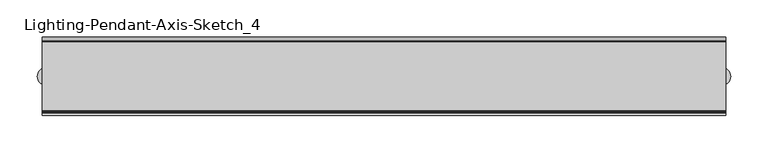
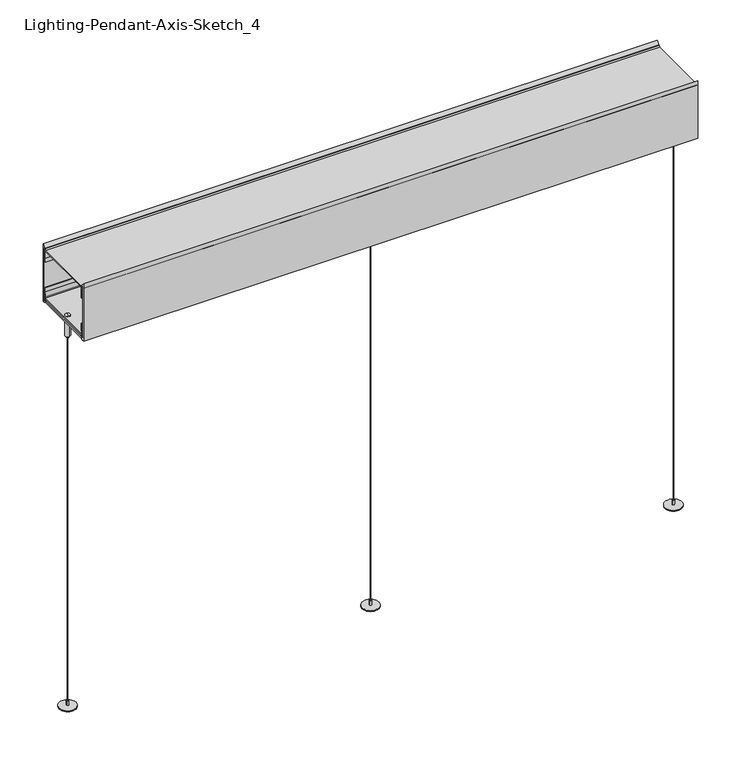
"""IFC4 building model written with IfcOpenShell, lengths in millimetres: light fixture geometry, Lighting-Pendant-Axis-Sketch_4 : SK4PDI-1400-1400-SO-SO-80-35."""

import ifcopenshell
import ifcopenshell.guid

model = None  # the IFC model being written
_history = None  # IfcOwnerHistory: only IFC2X3 demands one
_inside = {}  # id of a spatial element -> (the spatial element, [elements in it])
_under = {}  # id of a project, library or spatial element -> (it, [spatial elements below it])
_declared = {}  # id of a project -> (the project, [libraries it declares])
_typed = {}  # id of a type object -> (the type object, [elements of that type])
_made_of = {}  # id of a material, layer set ... -> (it, [elements and type objects made of it])


def new_model(schema):
    """Start an empty IFC model of exactly this schema.

    Asked for "IFC4X3", IfcOpenShell would pick the latest addendum, in which some entities
    have other attributes; the version numbers below select the first issue.
    IFC2X3 requires an IfcOwnerHistory on every rooted entity: one is made here for all.
    """
    global model, _history
    if schema == "IFC4X3":
        model = ifcopenshell.file(schema_version=(4, 3, 0, 0))
    else:
        model = ifcopenshell.file(schema=schema)
    _inside.clear()
    _under.clear()
    _declared.clear()
    _typed.clear()
    _made_of.clear()
    _history = None
    if model.schema == "IFC2X3":
        org = make("IfcOrganization", Name="unknown")
        user = make(
            "IfcPersonAndOrganization",
            ThePerson=make("IfcPerson", FamilyName="unknown"),
            TheOrganization=org,
        )
        app = make(
            "IfcApplication",
            ApplicationDeveloper=org,
            Version="unknown",
            ApplicationFullName="unknown",
            ApplicationIdentifier="unknown",
        )
        _history = make(
            "IfcOwnerHistory",
            OwningUser=user,
            OwningApplication=app,
            ChangeAction="ADDED",
            CreationDate=0,
        )
    return model


def make(cls, **values):
    """One entity of the class cls with the attributes given. An attribute that is None is left unset."""
    return model.create_entity(
        cls, **{name: value for name, value in values.items() if value is not None}
    )


def rooted(cls, **values):
    """An entity with a GlobalId (a new one), such as an element, a storey or a relation."""
    return make(cls, GlobalId=ifcopenshell.guid.new(), OwnerHistory=_history, **values)


def si_unit(unit_type, name, prefix=None):
    """IfcSIUnit, for example si_unit("LENGTHUNIT", "METRE", prefix="MILLI")."""
    return make("IfcSIUnit", UnitType=unit_type, Prefix=prefix, Name=name)


def assignment(units):
    """IfcUnitAssignment: the units of a project."""
    return None if units is None else make("IfcUnitAssignment", Units=units)


def point(xyz):
    """IfcCartesianPoint."""
    return None if xyz is None else make("IfcCartesianPoint", Coordinates=xyz)


def direction(xyz):
    """IfcDirection."""
    return None if xyz is None else make("IfcDirection", DirectionRatios=xyz)


def frame(location, z_axis=None, x_axis=None):
    """IfcAxis2Placement3D, a coordinate frame: its origin and axes. An axis left out is left unset."""
    return make(
        "IfcAxis2Placement3D",
        Location=point(location),
        Axis=direction(z_axis),
        RefDirection=direction(x_axis),
    )


def frame_2d(location, x_axis=None):
    """IfcAxis2Placement2D, a coordinate frame in the plane: its origin and x axis."""
    return make(
        "IfcAxis2Placement2D", Location=point(location), RefDirection=direction(x_axis)
    )


def origin():
    """The frame at (0, 0, 0) with its axes left unset."""
    return frame((0.0, 0.0, 0.0))


def origin_with_axes():
    """The frame at (0, 0, 0) with the z axis (0, 0, 1) and the x axis (1, 0, 0) written out."""
    return frame((0.0, 0.0, 0.0), z_axis=(0.0, 0.0, 1.0), x_axis=(1.0, 0.0, 0.0))


def origin_2d():
    """The frame at (0, 0) in the plane with its x axis left unset."""
    return frame_2d((0.0, 0.0))


def place(relative_to, where):
    """IfcLocalPlacement: puts the frame where relative to a parent placement (None: the world)."""
    return make(
        "IfcLocalPlacement", PlacementRelTo=relative_to, RelativePlacement=where
    )


def context(
    kind, dimensions, precision=None, world=None, true_north=None, identifier=None
):
    """IfcGeometricRepresentationContext, for example the 3D "Model" context."""
    return make(
        "IfcGeometricRepresentationContext",
        ContextIdentifier=identifier,
        ContextType=kind,
        CoordinateSpaceDimension=dimensions,
        Precision=precision,
        WorldCoordinateSystem=world,
        TrueNorth=true_north,
    )


def project(units=None, contexts=None):
    """IfcProject with its units and contexts."""
    return rooted(
        "IfcProject",
        Name="project",
        RepresentationContexts=contexts,
        UnitsInContext=assignment(units),
    )


def spatial(cls, under=None, at=None, **own):
    """A site, building, storey or space (cls), placed at a placement, below another one or the project."""
    s = rooted(cls, ObjectPlacement=at, **own)
    if under is not None:
        _under.setdefault(under.id(), (under, []))[1].append(s)
    return s


def polyline(points):
    """IfcPolyline through the points."""
    return make("IfcPolyline", Points=[point(p) for p in points])


def circle_curve(where, radius):
    """IfcCircle in the frame where."""
    return make("IfcCircle", Position=where, Radius=radius)


def trimmed(basis, trim1, trim2, sense, master):
    """IfcTrimmedCurve: the piece of a basis curve between two trims."""
    return make(
        "IfcTrimmedCurve",
        BasisCurve=basis,
        Trim1=trim1,
        Trim2=trim2,
        SenseAgreement=sense,
        MasterRepresentation=master,
    )


def segment(curve, same_sense, transition):
    """IfcCompositeCurveSegment."""
    return make(
        "IfcCompositeCurveSegment",
        Transition=transition,
        SameSense=same_sense,
        ParentCurve=curve,
    )


def composite_curve(segments, self_intersect=None):
    """IfcCompositeCurve: segments joined end to end."""
    return make("IfcCompositeCurve", Segments=segments, SelfIntersect=self_intersect)


def outline(outer, holes=None, kind="AREA"):
    """IfcArbitraryClosedProfileDef: a profile drawn as a closed curve; with holes, ...WithVoids."""
    if holes is None:
        return make("IfcArbitraryClosedProfileDef", ProfileType=kind, OuterCurve=outer)
    return make(
        "IfcArbitraryProfileDefWithVoids",
        ProfileType=kind,
        OuterCurve=outer,
        InnerCurves=holes,
    )


def extrude(swept, where, along, depth):
    """IfcExtrudedAreaSolid: the profile swept, set in the frame where, extruded along a direction by depth."""
    return make(
        "IfcExtrudedAreaSolid",
        SweptArea=swept,
        Position=where,
        ExtrudedDirection=direction(along),
        Depth=depth,
    )


def shape(context_of_items, identifier, shape_type, items):
    """IfcShapeRepresentation: the items that make up one representation, for example the "Body"."""
    return make(
        "IfcShapeRepresentation",
        ContextOfItems=context_of_items,
        RepresentationIdentifier=identifier,
        RepresentationType=shape_type,
        Items=items,
    )


def source(mapping_origin, context_of_items, identifier, shape_type, items):
    """IfcRepresentationMap: a shape defined once, which mapped items show again and again."""
    return make(
        "IfcRepresentationMap",
        MappingOrigin=mapping_origin,
        MappedRepresentation=shape(context_of_items, identifier, shape_type, items),
    )


def transform(
    local_origin,
    x_axis=None,
    y_axis=None,
    z_axis=None,
    scale=None,
    scale2=None,
    scale3=None,
    uniform=True,
):
    """IfcCartesianTransformationOperator3D, or its non-uniform kind. x_axis, y_axis, z_axis: its Axis1, 2, 3."""
    if uniform:
        return make(
            "IfcCartesianTransformationOperator3D",
            Axis1=direction(x_axis),
            Axis2=direction(y_axis),
            LocalOrigin=point(local_origin),
            Scale=scale,
            Axis3=direction(z_axis),
        )
    return make(
        "IfcCartesianTransformationOperator3DnonUniform",
        Axis1=direction(x_axis),
        Axis2=direction(y_axis),
        LocalOrigin=point(local_origin),
        Scale=scale,
        Axis3=direction(z_axis),
        Scale2=scale2,
        Scale3=scale3,
    )


def mapped(mapping_source, mapping_target):
    """IfcMappedItem: shows the shape of a source again, moved by a transform."""
    return make(
        "IfcMappedItem", MappingSource=mapping_source, MappingTarget=mapping_target
    )


def made_of(thing, what):
    """Note that an element or type object is made of a material, layer set ...; save() writes the relation."""
    if what is not None:
        _made_of.setdefault(what.id(), (what, []))[1].append(thing)
    return thing


def element(
    cls,
    number,
    at=None,
    inside=None,
    cuts=None,
    type_object=None,
    material=None,
    context=None,
    identifier="Body",
    shape_type=None,
    held_by="IfcProductDefinitionShape",
    body=None,
    shapes=None,
    **own,
):
    """One element of the class cls, such as IfcWall. Its Tag is "e" and its number.

    at: its placement. inside: the storey or other place that contains it. cuts: it is an
    opening in that element (IfcRelVoidsElement). A single representation is given by context,
    identifier, shape_type and body (its items); several are given by shapes. held_by: the class
    of the entity that holds the representations. save() writes the other relations.
    """
    e = rooted(cls, Tag="e%d" % number, ObjectPlacement=at, **own)
    if body is not None:
        shapes = [shape(context, identifier, shape_type, body)]
    if shapes is not None:
        e.Representation = make(held_by, Representations=shapes)
    if inside is not None:
        _inside.setdefault(inside.id(), (inside, []))[1].append(e)
    if cuts is not None:
        rooted(
            "IfcRelVoidsElement", RelatingBuildingElement=cuts, RelatedOpeningElement=e
        )
    if type_object is not None:
        _typed.setdefault(type_object.id(), (type_object, []))[1].append(e)
    return made_of(e, material)


def aggregate(whole, parts):
    """IfcRelAggregates: a whole, such as a stair, and the parts it consists of."""
    return rooted("IfcRelAggregates", RelatingObject=whole, RelatedObjects=parts)


def save(model, path):
    """Write the relations noted so far, then the file.

    IfcRelAggregates (storeys below a building ...), IfcRelContainedInSpatialStructure (elements
    in a storey), IfcRelDefinesByType, IfcRelAssociatesMaterial and IfcRelDeclares: one each for
    every whole, place, type object, material and project.
    """
    for whole, parts in _under.values():
        aggregate(whole, parts)
    for where, things in _inside.values():
        rooted(
            "IfcRelContainedInSpatialStructure",
            RelatedElements=things,
            RelatingStructure=where,
        )
    for kind, things in _typed.values():
        rooted("IfcRelDefinesByType", RelatedObjects=things, RelatingType=kind)
    for what, things in _made_of.values():
        rooted("IfcRelAssociatesMaterial", RelatedObjects=things, RelatingMaterial=what)
    for by, libraries in _declared.values():
        rooted("IfcRelDeclares", RelatingContext=by, RelatedDefinitions=libraries)
    model.write(path)


def plane_surface(at):
    """IfcPlane: the flat surface through the origin of the frame at, square to its z axis."""
    return make("IfcPlane", Position=at)


def cylinder_surface(at, radius):
    """IfcCylindricalSurface: all points at the distance radius from the z axis of the frame at."""
    return make("IfcCylindricalSurface", Position=at, Radius=radius)


def advanced_brep(points, edges, surfaces, faces):
    """IfcAdvancedBrep: a solid bounded by faces that lie on surfaces and meet in shared edges.

    An edge is (start, end): straight between two places in points (the first is 0);
    or (start, end, curve); or (start, end, curve, False) where it runs against its curve.
    A face is (place in surfaces, loops), or (place, loops, False) where it looks against
    its surface's normal. A loop lists edges by number (the first is 1), with a minus sign
    where the edge is run from its end to its start. The first loop is the outer one.
    """
    corners = [point(p) for p in points]
    vertices = [make("IfcVertexPoint", VertexGeometry=c) for c in corners]
    made = []
    for start, end, *more in edges:
        made.append(
            make(
                "IfcEdgeCurve",
                EdgeStart=vertices[start],
                EdgeEnd=vertices[end],
                EdgeGeometry=more[0] if more else make("IfcPolyline", Points=[corners[start], corners[end]]),
                SameSense=more[1] if len(more) > 1 else True,
            )
        )
    hull = []
    for where, loops, *sense in faces:
        bounds = []
        for j, loop in enumerate(loops):
            ring = [make("IfcOrientedEdge", EdgeElement=made[abs(k) - 1], Orientation=k > 0) for k in loop]
            bounds.append(
                make(
                    "IfcFaceOuterBound" if j == 0 else "IfcFaceBound",
                    Bound=make("IfcEdgeLoop", EdgeList=ring),
                    Orientation=True,
                )
            )
        hull.append(make("IfcAdvancedFace", Bounds=bounds, FaceSurface=surfaces[where], SameSense=sense[0] if sense else True))
    return make("IfcAdvancedBrep", Outer=make("IfcClosedShell", CfsFaces=hull))


def lighting_pendant_axis_sketch_4_4e6c729b(model_context):
    return source(origin(), model_context, "Body", "SolidModel", [
        extrude(outline(composite_curve([segment(trimmed(circle_curve(frame_2d((450.85, 0.0)), 0.396875), [point((450.453125, 0.0))], [point((451.246875, 0.0))], False, "CARTESIAN"), True, "CONTINUOUS"), segment(trimmed(circle_curve(frame_2d((450.85, 0.0)), 0.396875), [point((451.246875, 0.0))], [point((450.453125, 0.0))], False, "CARTESIAN"), True, "CONTINUOUS")], self_intersect=False)), frame((0.0, 0.0, 9.525), z_axis=(0.0, 0.0, 1.0), x_axis=(1.0, 0.0, 0.0)), (0.0, 0.0, 1.0), 600.075),
        advanced_brep(
        [(450.85, -1.2, 583.1008521), (450.85, -2.95625, 583.1008521), (450.85, 2.95625, 583.1008521), (450.85, 1.2, 583.1008521), (450.85, -1.2, 580.2508521), (450.85, 1.2, 580.2508521), (450.85, 0.0, 580.2508521), (450.85, -3.75, 616.0364681), (450.85, 0.0, 616.0364681), (450.85, 3.75, 616.0364681), (450.85, -3.75, 584.1008521), (450.85, 3.75, 584.1008521), (450.85, -2.95625, 584.1008521), (450.85, 2.95625, 584.1008521)],
        [
            (0, 1),
            (1, 2, circle_curve(frame((450.85, 0.0, 583.1008521), z_axis=(0.0, 0.0, -1.0), x_axis=(0.0, 1.0, 0.0)), 2.95625)),
            (2, 3),
            (3, 0, circle_curve(frame((450.85, 0.0, 583.1008521), z_axis=(0.0, 0.0, 1.0), x_axis=(0.0, 1.0, 0.0)), 1.2)),
            (2, 1, circle_curve(frame((450.85, 0.0, 583.1008521), z_axis=(0.0, 0.0, -1.0), x_axis=(0.0, 1.0, 0.0)), 2.95625)),
            (0, 3, circle_curve(frame((450.85, 0.0, 583.1008521), z_axis=(0.0, 0.0, 1.0), x_axis=(0.0, 1.0, 0.0)), 1.2)),
            (4, 0),
            (3, 5),
            (5, 4, circle_curve(frame((450.85, 0.0, 580.2508521), z_axis=(0.0, 0.0, 1.0), x_axis=(0.0, 1.0, 0.0)), 1.2)),
            (4, 5, circle_curve(frame((450.85, 0.0, 580.2508521), z_axis=(0.0, 0.0, 1.0), x_axis=(0.0, 1.0, 0.0)), 1.2)),
            (6, 4),
            (5, 6),
            (7, 8),
            (8, 9),
            (9, 7, circle_curve(frame((450.85, 0.0, 616.0364681), z_axis=(0.0, 0.0, 1.0), x_axis=(0.0, 1.0, 0.0)), 3.75)),
            (7, 9, circle_curve(frame((450.85, 0.0, 616.0364681), z_axis=(0.0, 0.0, 1.0), x_axis=(0.0, 1.0, 0.0)), 3.75)),
            (10, 7),
            (9, 11),
            (11, 10, circle_curve(frame((450.85, 0.0, 584.1008521), z_axis=(0.0, 0.0, 1.0), x_axis=(0.0, 1.0, 0.0)), 3.75)),
            (10, 11, circle_curve(frame((450.85, 0.0, 584.1008521), z_axis=(0.0, 0.0, 1.0), x_axis=(0.0, 1.0, 0.0)), 3.75)),
            (12, 10),
            (11, 13),
            (13, 12, circle_curve(frame((450.85, 0.0, 584.1008521), z_axis=(0.0, 0.0, 1.0), x_axis=(0.0, 1.0, 0.0)), 2.95625)),
            (12, 13, circle_curve(frame((450.85, 0.0, 584.1008521), z_axis=(0.0, 0.0, 1.0), x_axis=(0.0, 1.0, 0.0)), 2.95625)),
            (1, 12),
            (13, 2),
        ],
        [
            plane_surface(frame((450.85, 0.0, 583.1008521), z_axis=(0.0, 0.0, -1.0), x_axis=(0.0, 1.0, 0.0))),
            cylinder_surface(frame((450.85, 0.0, 2648.6067943), z_axis=(0.0, 0.0, -1.0), x_axis=(0.0, 1.0, 0.0)), 1.2),
            plane_surface(frame((450.85, 0.0, 580.2508521), z_axis=(0.0, 0.0, -1.0), x_axis=(0.0, 1.0, 0.0))),
            plane_surface(frame((450.85, 0.0, 616.0364681), z_axis=(0.0, 0.0, 1.0), x_axis=(0.0, 1.0, 0.0))),
            cylinder_surface(frame((450.85, 0.0, 2648.6067943), z_axis=(0.0, 0.0, -1.0), x_axis=(0.0, 1.0, 0.0)), 3.75),
            plane_surface(frame((450.85, 0.0, 584.1008521), z_axis=(0.0, 0.0, -1.0), x_axis=(0.0, 1.0, 0.0))),
            cylinder_surface(frame((450.85, 0.0, 2648.6067943), z_axis=(0.0, 0.0, -1.0), x_axis=(0.0, 1.0, 0.0)), 2.95625),
        ],
        [
            (0, [[1, 2, 3, 4]]),
            (0, [[-3, 5, -1, 6]]),
            (1, [[7, -4, 8, 9]]),
            (1, [[-8, -6, -7, 10]]),
            (2, [[11, -9, 12]]),
            (2, [[-12, -10, -11]]),
            (3, [[13, 14, 15]]),
            (3, [[-14, -13, 16]]),
            (4, [[17, -15, 18, 19]]),
            (4, [[-18, -16, -17, 20]]),
            (5, [[21, -19, 22, 23]]),
            (5, [[-22, -20, -21, 24]]),
            (6, [[25, -23, 26, -2]]),
            (6, [[-26, -24, -25, -5]]),
        ],
    ),
        extrude(outline(composite_curve([segment(trimmed(circle_curve(frame_2d((450.85, 0.0)), 12.7), [point((438.15, 0.0))], [point((463.55, 0.0))], False, "CARTESIAN"), True, "CONTINUOUS"), segment(trimmed(circle_curve(frame_2d((450.85, 0.0)), 12.7), [point((463.55, 0.0))], [point((438.15, 0.0))], False, "CARTESIAN"), True, "CONTINUOUS")], self_intersect=False)), origin_with_axes(), (0.0, 0.0, 1.0), 1.5875),
        extrude(outline(composite_curve([segment(trimmed(circle_curve(frame_2d((450.85, 0.0)), 1.5875), [point((449.2625, 0.0))], [point((452.4375, 0.0))], False, "CARTESIAN"), True, "CONTINUOUS"), segment(trimmed(circle_curve(frame_2d((450.85, 0.0)), 1.5875), [point((452.4375, 0.0))], [point((449.2625, 0.0))], False, "CARTESIAN"), True, "CONTINUOUS")], self_intersect=False)), frame((0.0, 0.0, 1.5875), z_axis=(0.0, 0.0, 1.0), x_axis=(1.0, 0.0, 0.0)), (0.0, 0.0, 1.0), 7.9375),
        extrude(outline(composite_curve([segment(trimmed(circle_curve(frame_2d((-450.85, 0.0)), 0.396875), [point((-451.246875, 0.0))], [point((-450.453125, 0.0))], False, "CARTESIAN"), True, "CONTINUOUS"), segment(trimmed(circle_curve(frame_2d((-450.85, 0.0)), 0.396875), [point((-450.453125, 0.0))], [point((-451.246875, 0.0))], False, "CARTESIAN"), True, "CONTINUOUS")], self_intersect=False)), frame((0.0, 0.0, 9.525), z_axis=(0.0, 0.0, 1.0), x_axis=(1.0, 0.0, 0.0)), (0.0, 0.0, 1.0), 600.075),
        advanced_brep(
        [(-450.85, -1.2, 583.1008521), (-450.85, -2.95625, 583.1008521), (-450.85, 2.95625, 583.1008521), (-450.85, 1.2, 583.1008521), (-450.85, -1.2, 580.2508521), (-450.85, 1.2, 580.2508521), (-450.85, 0.0, 580.2508521), (-450.85, -3.75, 616.0364681), (-450.85, 0.0, 616.0364681), (-450.85, 3.75, 616.0364681), (-450.85, -3.75, 584.1008521), (-450.85, 3.75, 584.1008521), (-450.85, -2.95625, 584.1008521), (-450.85, 2.95625, 584.1008521)],
        [
            (0, 1),
            (1, 2, circle_curve(frame((-450.85, 0.0, 583.1008521), z_axis=(0.0, 0.0, -1.0), x_axis=(0.0, 1.0, 0.0)), 2.95625)),
            (2, 3),
            (3, 0, circle_curve(frame((-450.85, 0.0, 583.1008521), z_axis=(0.0, 0.0, 1.0), x_axis=(0.0, 1.0, 0.0)), 1.2)),
            (2, 1, circle_curve(frame((-450.85, 0.0, 583.1008521), z_axis=(0.0, 0.0, -1.0), x_axis=(0.0, 1.0, 0.0)), 2.95625)),
            (0, 3, circle_curve(frame((-450.85, 0.0, 583.1008521), z_axis=(0.0, 0.0, 1.0), x_axis=(0.0, 1.0, 0.0)), 1.2)),
            (4, 0),
            (3, 5),
            (5, 4, circle_curve(frame((-450.85, 0.0, 580.2508521), z_axis=(0.0, 0.0, 1.0), x_axis=(0.0, 1.0, 0.0)), 1.2)),
            (4, 5, circle_curve(frame((-450.85, 0.0, 580.2508521), z_axis=(0.0, 0.0, 1.0), x_axis=(0.0, 1.0, 0.0)), 1.2)),
            (6, 4),
            (5, 6),
            (7, 8),
            (8, 9),
            (9, 7, circle_curve(frame((-450.85, 0.0, 616.0364681), z_axis=(0.0, 0.0, 1.0), x_axis=(0.0, 1.0, 0.0)), 3.75)),
            (7, 9, circle_curve(frame((-450.85, 0.0, 616.0364681), z_axis=(0.0, 0.0, 1.0), x_axis=(0.0, 1.0, 0.0)), 3.75)),
            (10, 7),
            (9, 11),
            (11, 10, circle_curve(frame((-450.85, 0.0, 584.1008521), z_axis=(0.0, 0.0, 1.0), x_axis=(0.0, 1.0, 0.0)), 3.75)),
            (10, 11, circle_curve(frame((-450.85, 0.0, 584.1008521), z_axis=(0.0, 0.0, 1.0), x_axis=(0.0, 1.0, 0.0)), 3.75)),
            (12, 10),
            (11, 13),
            (13, 12, circle_curve(frame((-450.85, 0.0, 584.1008521), z_axis=(0.0, 0.0, 1.0), x_axis=(0.0, 1.0, 0.0)), 2.95625)),
            (12, 13, circle_curve(frame((-450.85, 0.0, 584.1008521), z_axis=(0.0, 0.0, 1.0), x_axis=(0.0, 1.0, 0.0)), 2.95625)),
            (1, 12),
            (13, 2),
        ],
        [
            plane_surface(frame((-450.85, 0.0, 583.1008521), z_axis=(0.0, 0.0, -1.0), x_axis=(0.0, 1.0, 0.0))),
            cylinder_surface(frame((-450.85, 0.0, 2648.6067943), z_axis=(0.0, 0.0, -1.0), x_axis=(0.0, 1.0, 0.0)), 1.2),
            plane_surface(frame((-450.85, 0.0, 580.2508521), z_axis=(0.0, 0.0, -1.0), x_axis=(0.0, 1.0, 0.0))),
            plane_surface(frame((-450.85, 0.0, 616.0364681), z_axis=(0.0, 0.0, 1.0), x_axis=(0.0, 1.0, 0.0))),
            cylinder_surface(frame((-450.85, 0.0, 2648.6067943), z_axis=(0.0, 0.0, -1.0), x_axis=(0.0, 1.0, 0.0)), 3.75),
            plane_surface(frame((-450.85, 0.0, 584.1008521), z_axis=(0.0, 0.0, -1.0), x_axis=(0.0, 1.0, 0.0))),
            cylinder_surface(frame((-450.85, 0.0, 2648.6067943), z_axis=(0.0, 0.0, -1.0), x_axis=(0.0, 1.0, 0.0)), 2.95625),
        ],
        [
            (0, [[1, 2, 3, 4]]),
            (0, [[-3, 5, -1, 6]]),
            (1, [[7, -4, 8, 9]]),
            (1, [[-8, -6, -7, 10]]),
            (2, [[11, -9, 12]]),
            (2, [[-12, -10, -11]]),
            (3, [[13, 14, 15]]),
            (3, [[-14, -13, 16]]),
            (4, [[17, -15, 18, 19]]),
            (4, [[-18, -16, -17, 20]]),
            (5, [[21, -19, 22, 23]]),
            (5, [[-22, -20, -21, 24]]),
            (6, [[25, -23, 26, -2]]),
            (6, [[-26, -24, -25, -5]]),
        ],
    ),
        extrude(outline(composite_curve([segment(trimmed(circle_curve(frame_2d((-450.85, 0.0)), 12.7), [point((-463.55, 0.0))], [point((-438.15, 0.0))], False, "CARTESIAN"), True, "CONTINUOUS"), segment(trimmed(circle_curve(frame_2d((-450.85, 0.0)), 12.7), [point((-438.15, 0.0))], [point((-463.55, 0.0))], False, "CARTESIAN"), True, "CONTINUOUS")], self_intersect=False)), origin_with_axes(), (0.0, 0.0, 1.0), 1.5875),
        extrude(outline(composite_curve([segment(trimmed(circle_curve(frame_2d((-450.85, 0.0)), 1.5875), [point((-452.4375, 0.0))], [point((-449.2625, 0.0))], False, "CARTESIAN"), True, "CONTINUOUS"), segment(trimmed(circle_curve(frame_2d((-450.85, 0.0)), 1.5875), [point((-449.2625, 0.0))], [point((-452.4375, 0.0))], False, "CARTESIAN"), True, "CONTINUOUS")], self_intersect=False)), frame((0.0, 0.0, 1.5875), z_axis=(0.0, 0.0, 1.0), x_axis=(1.0, 0.0, 0.0)), (0.0, 0.0, 1.0), 7.9375),
        extrude(outline(composite_curve([segment(trimmed(circle_curve(origin_2d(), 0.396875), [point((-0.396875, 0.0))], [point((0.396875, 0.0))], False, "CARTESIAN"), True, "CONTINUOUS"), segment(trimmed(circle_curve(origin_2d(), 0.396875), [point((0.396875, 0.0))], [point((-0.396875, 0.0))], False, "CARTESIAN"), True, "CONTINUOUS")], self_intersect=False)), frame((0.0, 0.0, 9.525), z_axis=(0.0, 0.0, 1.0), x_axis=(1.0, 0.0, 0.0)), (0.0, 0.0, 1.0), 600.075),
        advanced_brep(
        [(0.0, -1.2, 583.1008521), (0.0, -2.95625, 583.1008521), (0.0, 2.95625, 583.1008521), (0.0, 1.2, 583.1008521), (0.0, -1.2, 580.2508521), (0.0, 1.2, 580.2508521), (0.0, 0.0, 580.2508521), (0.0, -3.75, 616.0364681), (0.0, 0.0, 616.0364681), (0.0, 3.75, 616.0364681), (0.0, -3.75, 584.1008521), (0.0, 3.75, 584.1008521), (0.0, -2.95625, 584.1008521), (0.0, 2.95625, 584.1008521)],
        [
            (0, 1),
            (1, 2, circle_curve(frame((0.0, 0.0, 583.1008521), z_axis=(0.0, 0.0, -1.0), x_axis=(0.0, 1.0, 0.0)), 2.95625)),
            (2, 3),
            (3, 0, circle_curve(frame((0.0, 0.0, 583.1008521), z_axis=(0.0, 0.0, 1.0), x_axis=(0.0, 1.0, 0.0)), 1.2)),
            (2, 1, circle_curve(frame((0.0, 0.0, 583.1008521), z_axis=(0.0, 0.0, -1.0), x_axis=(0.0, 1.0, 0.0)), 2.95625)),
            (0, 3, circle_curve(frame((0.0, 0.0, 583.1008521), z_axis=(0.0, 0.0, 1.0), x_axis=(0.0, 1.0, 0.0)), 1.2)),
            (4, 0),
            (3, 5),
            (5, 4, circle_curve(frame((0.0, 0.0, 580.2508521), z_axis=(0.0, 0.0, 1.0), x_axis=(0.0, 1.0, 0.0)), 1.2)),
            (4, 5, circle_curve(frame((0.0, 0.0, 580.2508521), z_axis=(0.0, 0.0, 1.0), x_axis=(0.0, 1.0, 0.0)), 1.2)),
            (6, 4),
            (5, 6),
            (7, 8),
            (8, 9),
            (9, 7, circle_curve(frame((0.0, 0.0, 616.0364681), z_axis=(0.0, 0.0, 1.0), x_axis=(0.0, 1.0, 0.0)), 3.75)),
            (7, 9, circle_curve(frame((0.0, 0.0, 616.0364681), z_axis=(0.0, 0.0, 1.0), x_axis=(0.0, 1.0, 0.0)), 3.75)),
            (10, 7),
            (9, 11),
            (11, 10, circle_curve(frame((0.0, 0.0, 584.1008521), z_axis=(0.0, 0.0, 1.0), x_axis=(0.0, 1.0, 0.0)), 3.75)),
            (10, 11, circle_curve(frame((0.0, 0.0, 584.1008521), z_axis=(0.0, 0.0, 1.0), x_axis=(0.0, 1.0, 0.0)), 3.75)),
            (12, 10),
            (11, 13),
            (13, 12, circle_curve(frame((0.0, 0.0, 584.1008521), z_axis=(0.0, 0.0, 1.0), x_axis=(0.0, 1.0, 0.0)), 2.95625)),
            (12, 13, circle_curve(frame((0.0, 0.0, 584.1008521), z_axis=(0.0, 0.0, 1.0), x_axis=(0.0, 1.0, 0.0)), 2.95625)),
            (1, 12),
            (13, 2),
        ],
        [
            plane_surface(frame((0.0, 0.0, 583.1008521), z_axis=(0.0, 0.0, -1.0), x_axis=(0.0, 1.0, 0.0))),
            cylinder_surface(frame((0.0, 0.0, 2648.6067943), z_axis=(0.0, 0.0, -1.0), x_axis=(0.0, 1.0, 0.0)), 1.2),
            plane_surface(frame((0.0, 0.0, 580.2508521), z_axis=(0.0, 0.0, -1.0), x_axis=(0.0, 1.0, 0.0))),
            plane_surface(frame((0.0, 0.0, 616.0364681), z_axis=(0.0, 0.0, 1.0), x_axis=(0.0, 1.0, 0.0))),
            cylinder_surface(frame((0.0, 0.0, 2648.6067943), z_axis=(0.0, 0.0, -1.0), x_axis=(0.0, 1.0, 0.0)), 3.75),
            plane_surface(frame((0.0, 0.0, 584.1008521), z_axis=(0.0, 0.0, -1.0), x_axis=(0.0, 1.0, 0.0))),
            cylinder_surface(frame((0.0, 0.0, 2648.6067943), z_axis=(0.0, 0.0, -1.0), x_axis=(0.0, 1.0, 0.0)), 2.95625),
        ],
        [
            (0, [[1, 2, 3, 4]]),
            (0, [[-3, 5, -1, 6]]),
            (1, [[7, -4, 8, 9]]),
            (1, [[-8, -6, -7, 10]]),
            (2, [[11, -9, 12]]),
            (2, [[-12, -10, -11]]),
            (3, [[13, 14, 15]]),
            (3, [[-14, -13, 16]]),
            (4, [[17, -15, 18, 19]]),
            (4, [[-18, -16, -17, 20]]),
            (5, [[21, -19, 22, 23]]),
            (5, [[-22, -20, -21, 24]]),
            (6, [[25, -23, 26, -2]]),
            (6, [[-26, -24, -25, -5]]),
        ],
    ),
        extrude(outline(composite_curve([segment(trimmed(circle_curve(origin_2d(), 12.7), [point((-12.7, 0.0))], [point((12.7, 0.0))], False, "CARTESIAN"), True, "CONTINUOUS"), segment(trimmed(circle_curve(origin_2d(), 12.7), [point((12.7, 0.0))], [point((-12.7, 0.0))], False, "CARTESIAN"), True, "CONTINUOUS")], self_intersect=False)), origin_with_axes(), (0.0, 0.0, 1.0), 1.5875),
        extrude(outline(composite_curve([segment(trimmed(circle_curve(origin_2d(), 1.5875), [point((-1.5875, 0.0))], [point((1.5875, 0.0))], False, "CARTESIAN"), True, "CONTINUOUS"), segment(trimmed(circle_curve(origin_2d(), 1.5875), [point((1.5875, 0.0))], [point((-1.5875, 0.0))], False, "CARTESIAN"), True, "CONTINUOUS")], self_intersect=False)), frame((0.0, 0.0, 1.5875), z_axis=(0.0, 0.0, 1.0), x_axis=(1.0, 0.0, 0.0)), (0.0, 0.0, 1.0), 7.9375),
        extrude(outline(polyline([(-457.2, 48.2599987), (457.2, 48.2599987), (457.2, -48.2599977), (-457.2, -48.2599977), (-457.2, 48.2599987)])), frame((0.0, 0.0, 689.9966516), z_axis=(0.0, 0.0, 1.0), x_axis=(1.0, 0.0, 0.0)), (0.0, 0.0, 1.0), 1.2700021),
        extrude(outline(polyline([(-457.2, 48.2599987), (457.2, 48.2599987), (457.2, -48.2599977), (-457.2, -48.2599977), (-457.2, 48.2599987)])), frame((0.0, 0.0, 614.5727648), z_axis=(0.0, 0.0, 1.0), x_axis=(1.0, 0.0, 0.0)), (0.0, 0.0, 1.0), 1.27),
        extrude(outline(polyline([(52.387502, 608.1183333), (48.8649121, 608.1183333), (47.3074984, 609.6312495), (47.3074984, 611.2933333), (48.5749867, 611.2933333), (48.5749867, 610.0233333), (50.4824984, 610.0233333), (50.4824984, 694.1255577), (47.9424983, 694.1255577), (52.387502, 698.5705614), (52.387502, 608.1183333)])), frame((-457.2, 0.0, 0.0), z_axis=(1.0, 0.0, 0.0), x_axis=(0.0, 1.0, 0.0)), (0.0, 0.0, 1.0), 914.4),
        extrude(outline(composite_curve([segment(trimmed(circle_curve(frame_2d((48.3340208, 615.7030556)), 1.6193127), [point((47.7623797, 617.2181133))], [point((49.9533335, 615.7030556))], False, "CARTESIAN"), True, "CONTINUOUS"), segment(polyline([(49.9533335, 615.7030556), (49.9180536, 613.3747222)]), True, "CONTINUOUS"), segment(trimmed(circle_curve(frame_2d((48.7732449, 613.3920688)), 1.1449401), [point((49.9180536, 613.3747222))], [point((48.2952793, 612.3516667))], False, "CARTESIAN"), True, "CONTINUOUS"), segment(polyline([(48.2952793, 612.3516667), (46.5723819, 614.1933833), (48.9062894, 614.1085157), (48.9655543, 615.7383333)]), True, "CONTINUOUS"), segment(trimmed(circle_curve(frame_2d((48.3048304, 615.63155)), 0.6692972), [point((48.9655543, 615.7383333))], [point((48.3048304, 616.3008472))], True, "CARTESIAN"), True, "CONTINUOUS"), segment(polyline([(48.3048304, 616.3008472), (46.8043106, 616.3008472), (46.2138897, 626.1805556), (46.1433321, 632.7774986), (47.1663883, 632.7774986), (47.203689, 626.6227718), (47.7623797, 617.2181133)]), True, "CONTINUOUS")], self_intersect=False)), frame((-457.2, 0.0, 0.0), z_axis=(1.0, 0.0, 0.0), x_axis=(0.0, 1.0, 0.0)), (0.0, 0.0, 1.0), 914.4),
        extrude(outline(composite_curve([segment(polyline([(47.1044268, 679.4782704), (47.3427772, 672.9236111), (46.318589, 672.9236111), (46.1087781, 679.4627439), (46.305025, 689.3731705), (48.4283489, 689.5430339), (48.3121579, 691.6345118), (45.9802057, 691.5049613), (47.6250008, 693.3847222)]), True, "CONTINUOUS"), segment(trimmed(circle_curve(frame_2d((48.1406669, 692.3629889)), 1.144487), [point((47.6250008, 693.3847222))], [point((49.2830578, 692.4322236))], False, "CARTESIAN"), True, "CONTINUOUS"), segment(polyline([(49.2830578, 692.4322236), (49.4241668, 690.1038875)]), True, "CONTINUOUS"), segment(trimmed(circle_curve(frame_2d((47.6971346, 689.9992206)), 1.730201), [point((49.4241668, 690.1038875))], [point((47.2795148, 688.3201765))], False, "CARTESIAN"), True, "CONTINUOUS"), segment(polyline([(47.2795148, 688.3201765), (47.1044268, 679.4782704)]), True, "CONTINUOUS")], self_intersect=False)), frame((-457.2, 0.0, 0.0), z_axis=(1.0, 0.0, 0.0), x_axis=(0.0, 1.0, 0.0)), (0.0, 0.0, 1.0), 914.4),
        extrude(outline(polyline([(-52.387502, 608.1183333), (-52.387502, 698.5705614), (-47.9424983, 694.1255577), (-50.4824984, 694.1255577), (-50.4824984, 610.0233333), (-48.5749867, 610.0233333), (-48.5749867, 611.2933333), (-47.3074984, 611.2933333), (-47.3074984, 609.6312495), (-48.8649121, 608.1183333), (-52.387502, 608.1183333)])), frame((-457.2, 0.0, 0.0), z_axis=(1.0, 0.0, 0.0), x_axis=(0.0, 1.0, 0.0)), (0.0, 0.0, 1.0), 914.4),
        extrude(outline(composite_curve([segment(polyline([(-47.7623797, 617.2181133), (-47.203689, 626.6227718), (-47.1663883, 632.7774986), (-46.1433321, 632.7774986), (-46.2138897, 626.1805556), (-46.8043106, 616.3008472), (-48.3048304, 616.3008472)]), True, "CONTINUOUS"), segment(trimmed(circle_curve(frame_2d((-48.3048304, 615.63155)), 0.6692972), [point((-48.3048304, 616.3008472))], [point((-48.9655543, 615.7383333))], True, "CARTESIAN"), True, "CONTINUOUS"), segment(polyline([(-48.9655543, 615.7383333), (-48.9655543, 614.2021029), (-46.6913645, 614.0661951), (-48.2952793, 612.3516667)]), True, "CONTINUOUS"), segment(trimmed(circle_curve(frame_2d((-48.7732449, 613.3920688)), 1.1449401), [point((-48.2952793, 612.3516667))], [point((-49.9180536, 613.3747222))], False, "CARTESIAN"), True, "CONTINUOUS"), segment(polyline([(-49.9180536, 613.3747222), (-49.9533335, 615.7030556)]), True, "CONTINUOUS"), segment(trimmed(circle_curve(frame_2d((-48.3340208, 615.7030556)), 1.6193127), [point((-49.9533335, 615.7030556))], [point((-47.7623797, 617.2181133))], False, "CARTESIAN"), True, "CONTINUOUS")], self_intersect=False)), frame((-457.2, 0.0, 0.0), z_axis=(1.0, 0.0, 0.0), x_axis=(0.0, 1.0, 0.0)), (0.0, 0.0, 1.0), 914.4),
        extrude(outline(composite_curve([segment(polyline([(-47.1044268, 679.4782704), (-47.2795148, 688.3201765)]), True, "CONTINUOUS"), segment(trimmed(circle_curve(frame_2d((-47.6971346, 689.9992206)), 1.730201), [point((-47.2795148, 688.3201765))], [point((-49.4241668, 690.1038875))], False, "CARTESIAN"), True, "CONTINUOUS"), segment(polyline([(-49.4241668, 690.1038875), (-49.2830578, 692.4322236)]), True, "CONTINUOUS"), segment(trimmed(circle_curve(frame_2d((-48.1406669, 692.3629889)), 1.144487), [point((-49.2830578, 692.4322236))], [point((-47.6250008, 693.3847222))], False, "CARTESIAN"), True, "CONTINUOUS"), segment(polyline([(-47.6250008, 693.3847222), (-45.9802057, 691.5049613), (-48.3121579, 691.6345118), (-48.4283489, 689.5430339), (-46.305025, 689.3731705), (-46.1087781, 679.4627439), (-46.318589, 672.9236111), (-47.3427772, 672.9236111), (-47.1044268, 679.4782704)]), True, "CONTINUOUS")], self_intersect=False)), frame((-457.2, 0.0, 0.0), z_axis=(1.0, 0.0, 0.0), x_axis=(0.0, 1.0, 0.0)), (0.0, 0.0, 1.0), 914.4),
        extrude(outline(polyline([(-457.2, 47.3074984), (457.2, 47.3074984), (457.2, -47.3074984), (-457.2, -47.3074984), (-457.2, 47.3074984)])), frame((0.0, 0.0, 609.6312495), z_axis=(0.0, 0.0, 1.0), x_axis=(1.0, 0.0, 0.0)), (0.0, 0.0, 1.0), 1.6620839),
    ])


if __name__ == "__main__":
    model = new_model("IFC4")
    model_context = context("Model", 3, world=origin())
    ifc_project = project(units=[si_unit("LENGTHUNIT", "METRE", prefix="MILLI")], contexts=[model_context])
    site = spatial("IfcSite", under=ifc_project)
    building = spatial("IfcBuilding", under=site)
    placement = place(None, origin())
    lighting_pendant_axis_sketch_4_shape = lighting_pendant_axis_sketch_4_4e6c729b(model_context)
    element("IfcLightFixture", 1, ObjectType="Lighting-Pendant-Axis-Sketch_4 : SK4PDI-1400-1400-SO-SO-80-35", at=placement, inside=building, context=model_context, shape_type="MappedRepresentation", body=[
        mapped(lighting_pendant_axis_sketch_4_shape, transform((0.0, 0.0, 0.0), x_axis=(1.0, 0.0, 0.0), y_axis=(0.0, 1.0, 0.0), z_axis=(0.0, 0.0, 1.0))),
    ])
    save(model, "model.ifc")
